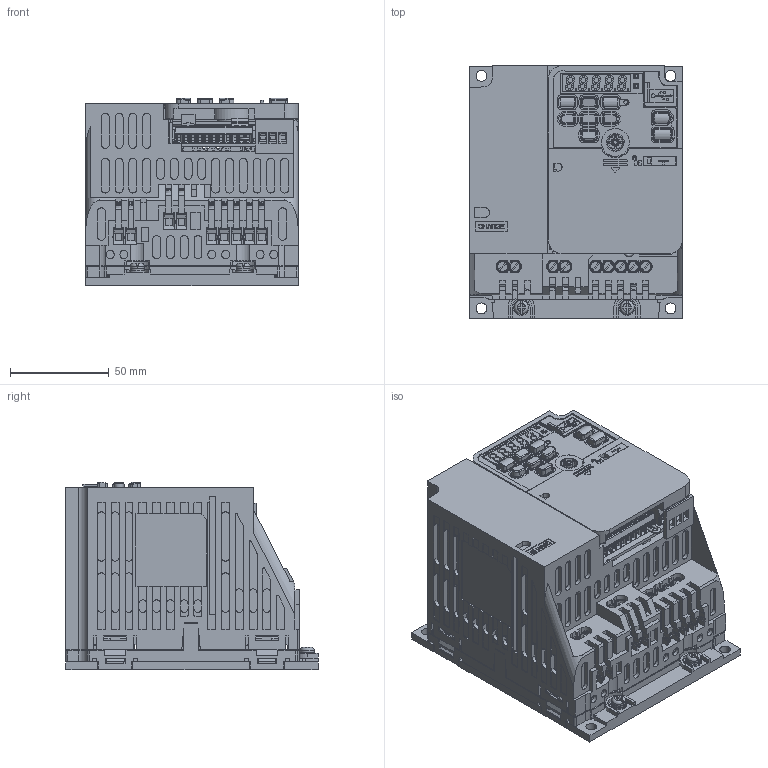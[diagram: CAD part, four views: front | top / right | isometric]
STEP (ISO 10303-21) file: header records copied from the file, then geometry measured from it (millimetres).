
FILE_DESCRIPTION((''),'2;1');
FILE_NAME('CIPR-GA50XB010_AJXX_ASM','2020-11-26T',('ryoji-h'),('YASKAWA ELECTRIC CORCORATION'),'PRO/ENGINEER BY PARAMETRIC TECHNOLOGY CORPORATION, 2017170','PRO/ENGINEER BY PARAMETRIC TECHNOLOGY CORPORATION, 2017170','');
FILE_SCHEMA(('AUTOMOTIVE_DESIGN { 1 0 10303 214 1 1 1 1 }'));
Products named in the file (9): CIPR-GA50XB010AJXX_BODY; CIPR-GA50_ALL_TB; CIPR-GA50_KEYPAD; CIPR-GA50_USB_COVER; CIPR-GA50_COMMON_1; CIPR-GA50_COMMON_2; CIPR-GA50_FP; CIPR-GA50_SCREW_GND_M4X8; CIPR-GA50XB010_AJXX_ASM
Assembly tree (9 placements, depth 2):
  CIPR-GA50XB010_AJXX_ASM
    CIPR-GA50XB010AJXX_BODY
    CIPR-GA50_ALL_TB
    CIPR-GA50_KEYPAD
    CIPR-GA50_USB_COVER
    CIPR-GA50_COMMON_1
    CIPR-GA50_COMMON_2
    CIPR-GA50_FP
    CIPR-GA50_SCREW_GND_M4X8  x2
Bounding box: 108 x 128 x 95.25 mm (x, y, z)
Volume: 852465.3 mm3; surface area: 191911.1 mm2
Topology: 10 solids, 10 shells, 7381 faces, 20415 edges, 13466 vertices
Faces by surface type: plane 5838, cylinder 1396, torus 61, cone 44, bspline 34, sphere 8
Entity records: 288487 total; most frequent: CARTESIAN_POINT 44751, ORIENTED_EDGE 40622, DIRECTION 37897, EDGE_CURVE 20311, VECTOR 16627, LINE 16627, VERTEX_POINT 13404, AXIS2_PLACEMENT_3D 10635
